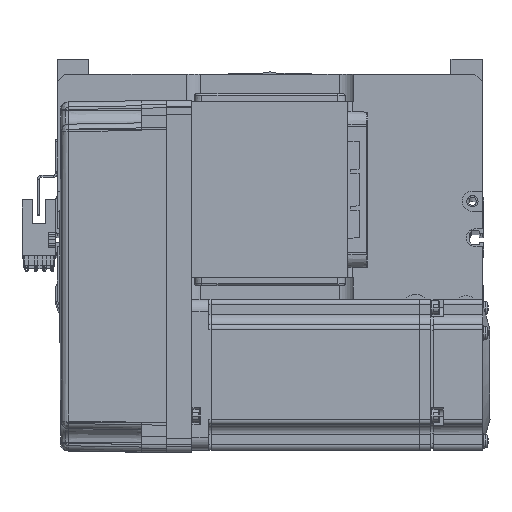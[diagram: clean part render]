
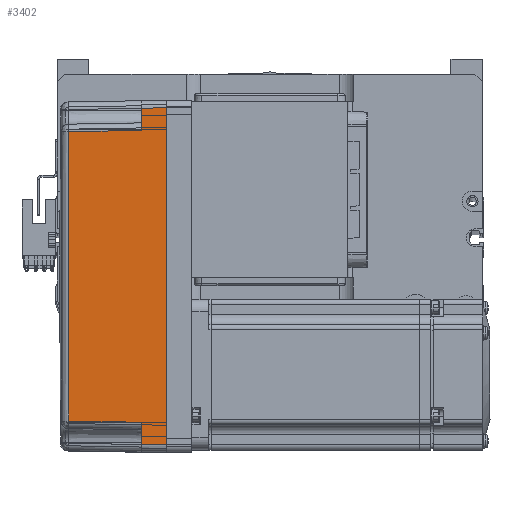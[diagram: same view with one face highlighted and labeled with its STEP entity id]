
A CAD part, top view. The second image highlights one B-rep face of the part: STEP entity #3402.
In plain terms, the highlighted planar face has unit normal (-0.018, 0, 1) as drawn and (0, -1, 0.017) by its records, which use the part's own axes.
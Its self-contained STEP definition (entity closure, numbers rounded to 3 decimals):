
#1942 = DIRECTION ( 'NONE',  ( 0., -0.017, -1. ) ) ;
#2878 = CARTESIAN_POINT ( 'NONE',  ( 58., -35.825, 10. ) ) ;
#3402 = ADVANCED_FACE ( 'NONE', ( #8504 ), #6191, .T. ) ;
#3494 = VERTEX_POINT ( 'NONE', #8707 ) ;
#3536 = VECTOR ( 'NONE', #47683, 1000. ) ;
#3543 = EDGE_CURVE ( 'NONE', #3494, #33665, #6180, .T. ) ;
#4916 = DIRECTION ( 'NONE',  ( -1., 0., 0. ) ) ;
#6180 = LINE ( 'NONE', #23951, #60978 ) ;
#6191 = PLANE ( 'NONE',  #23187 ) ;
#6340 = ORIENTED_EDGE ( 'NONE', *, *, #34338, .F. ) ;
#6826 = DIRECTION ( 'NONE',  ( 0., -1., 0.017 ) ) ;
#8504 = FACE_OUTER_BOUND ( 'NONE', #30798, .T. ) ;
#8707 = CARTESIAN_POINT ( 'NONE',  ( -67., -36., 0. ) ) ;
#8942 = EDGE_CURVE ( 'NONE', #50162, #33604, #37928, .T. ) ;
#10907 = VERTEX_POINT ( 'NONE', #52510 ) ;
#12182 = CARTESIAN_POINT ( 'NONE',  ( 58., -35.825, 10. ) ) ;
#14608 = CARTESIAN_POINT ( 'NONE',  ( 57.495, -35.32, 38.985 ) ) ;
#16520 = CARTESIAN_POINT ( 'NONE',  ( 0., -36., 0. ) ) ;
#18188 = CARTESIAN_POINT ( 'NONE',  ( -57.495, -35.32, 38.985 ) ) ;
#20793 = LINE ( 'NONE', #60589, #47396 ) ;
#21830 = CARTESIAN_POINT ( 'NONE',  ( 57.495, -35.32, 38.985 ) ) ;
#23187 = AXIS2_PLACEMENT_3D ( 'NONE', #50381, #6826, #1942 ) ;
#23782 = EDGE_CURVE ( 'NONE', #32268, #24474, #33036, .T. ) ;
#23951 = CARTESIAN_POINT ( 'NONE',  ( -66.959, -35.958, 2.39 ) ) ;
#24474 = VERTEX_POINT ( 'NONE', #14608 ) ;
#26716 = ORIENTED_EDGE ( 'NONE', *, *, #23782, .T. ) ;
#28284 = CARTESIAN_POINT ( 'NONE',  ( 67., -36., 0. ) ) ;
#29152 = EDGE_CURVE ( 'NONE', #61316, #10907, #20793, .T. ) ;
#30798 = EDGE_LOOP ( 'NONE', ( #43287, #34052, #26716, #43505, #54053, #61642, #61981, #6340 ) ) ;
#31617 = DIRECTION ( 'NONE',  ( -1., 0., 0. ) ) ;
#31632 = CARTESIAN_POINT ( 'NONE',  ( -57.495, -35.32, 38.985 ) ) ;
#32268 = VERTEX_POINT ( 'NONE', #2878 ) ;
#32993 = CARTESIAN_POINT ( 'NONE',  ( 66.826, -35.825, 10. ) ) ;
#33036 = LINE ( 'NONE', #12182, #61215 ) ;
#33604 = VERTEX_POINT ( 'NONE', #32993 ) ;
#33665 = VERTEX_POINT ( 'NONE', #58327 ) ;
#34024 = CARTESIAN_POINT ( 'NONE',  ( 70., -35.825, 10. ) ) ;
#34052 = ORIENTED_EDGE ( 'NONE', *, *, #54860, .T. ) ;
#34338 = EDGE_CURVE ( 'NONE', #50162, #3494, #54753, .T. ) ;
#36066 = EDGE_CURVE ( 'NONE', #24474, #61316, #57638, .T. ) ;
#36804 = DIRECTION ( 'NONE',  ( -0.017, 0.017, 1. ) ) ;
#37928 = LINE ( 'NONE', #28284, #57737 ) ;
#40026 = LINE ( 'NONE', #42729, #3536 ) ;
#41144 = CARTESIAN_POINT ( 'NONE',  ( 19.165, -35.316, 39.181 ) ) ;
#42061 = DIRECTION ( 'NONE',  ( -0.017, 0.017, 1. ) ) ;
#42729 = CARTESIAN_POINT ( 'NONE',  ( 70., -35.825, 10. ) ) ;
#43287 = ORIENTED_EDGE ( 'NONE', *, *, #8942, .T. ) ;
#43505 = ORIENTED_EDGE ( 'NONE', *, *, #36066, .T. ) ;
#47396 = VECTOR ( 'NONE', #51153, 1000. ) ;
#47683 = DIRECTION ( 'NONE',  ( -1., 0., 0. ) ) ;
#50162 = VERTEX_POINT ( 'NONE', #58814 ) ;
#50381 = CARTESIAN_POINT ( 'NONE',  ( 70., -36., 0. ) ) ;
#50460 = EDGE_CURVE ( 'NONE', #10907, #33665, #55462, .T. ) ;
#51153 = DIRECTION ( 'NONE',  ( -0.017, -0.017, -1. ) ) ;
#52510 = CARTESIAN_POINT ( 'NONE',  ( -58., -35.825, 10. ) ) ;
#54053 = ORIENTED_EDGE ( 'NONE', *, *, #29152, .T. ) ;
#54753 = LINE ( 'NONE', #16520, #57791 ) ;
#54860 = EDGE_CURVE ( 'NONE', #33604, #32268, #40026, .T. ) ;
#55462 = LINE ( 'NONE', #34024, #63114 ) ;
#57403 = DIRECTION ( 'NONE',  ( 0.017, 0.017, 1. ) ) ;
#57638 = B_SPLINE_CURVE_WITH_KNOTS ( 'NONE', 3,
 ( #21830, #41144, #60805, #31632 ),
 .UNSPECIFIED., .F., .F.,
 ( 4, 4 ),
 ( 0., 1. ),
 .UNSPECIFIED. ) ;
#57737 = VECTOR ( 'NONE', #42061, 1000. ) ;
#57791 = VECTOR ( 'NONE', #31617, 1000. ) ;
#58327 = CARTESIAN_POINT ( 'NONE',  ( -66.826, -35.825, 10. ) ) ;
#58814 = CARTESIAN_POINT ( 'NONE',  ( 67., -36., 0. ) ) ;
#60589 = CARTESIAN_POINT ( 'NONE',  ( -57.495, -35.32, 38.985 ) ) ;
#60805 = CARTESIAN_POINT ( 'NONE',  ( -19.165, -35.316, 39.181 ) ) ;
#60978 = VECTOR ( 'NONE', #57403, 1000. ) ;
#61215 = VECTOR ( 'NONE', #36804, 1000. ) ;
#61316 = VERTEX_POINT ( 'NONE', #18188 ) ;
#61642 = ORIENTED_EDGE ( 'NONE', *, *, #50460, .T. ) ;
#61981 = ORIENTED_EDGE ( 'NONE', *, *, #3543, .F. ) ;
#63114 = VECTOR ( 'NONE', #4916, 1000. ) ;
